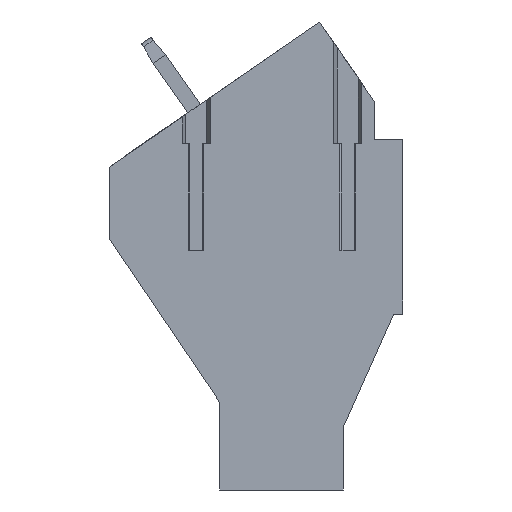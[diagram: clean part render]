
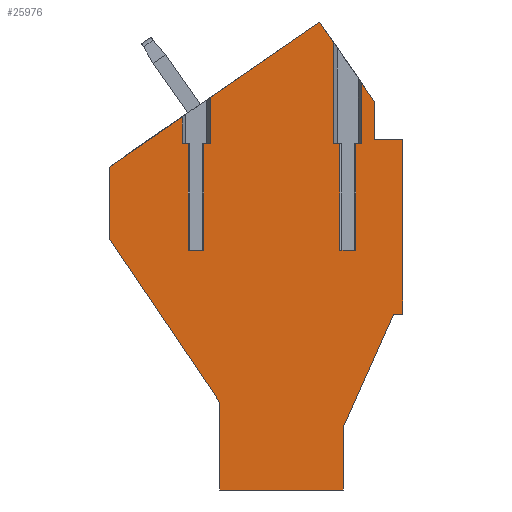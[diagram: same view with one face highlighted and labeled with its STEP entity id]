
A CAD part, front view. The second image highlights one B-rep face of the part: STEP entity #25976.
In plain terms, the highlighted planar face has unit normal (0, -1, 0).
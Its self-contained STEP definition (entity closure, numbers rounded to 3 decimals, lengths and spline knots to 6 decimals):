
#1=DIRECTION('',(-0.567,0.,0.824));
#2=VECTOR('',#1,0.001234);
#3=CARTESIAN_POINT('',(0.004998,0.,0.011318));
#4=LINE('',#3,#2);
#5=DIRECTION('',(0.,0.,1.));
#6=VECTOR('',#5,0.002);
#7=CARTESIAN_POINT('',(0.004998,0.,0.009318));
#8=LINE('',#7,#6);
#9=DIRECTION('',(-1.,0.,0.));
#10=VECTOR('',#9,0.0015);
#11=CARTESIAN_POINT('',(0.006498,0.,0.009318));
#12=LINE('',#11,#10);
#13=DIRECTION('',(0.,0.,1.));
#14=VECTOR('',#13,0.009318);
#15=CARTESIAN_POINT('',(0.006498,0.,0.));
#16=LINE('',#15,#14);
#17=DIRECTION('',(1.,0.,0.));
#18=VECTOR('',#17,0.0005);
#19=CARTESIAN_POINT('',(0.005998,0.,0.));
#20=LINE('',#19,#18);
#21=DIRECTION('',(0.407,0.,0.914));
#22=VECTOR('',#21,0.006633);
#23=CARTESIAN_POINT('',(0.0033,0.,-0.00606));
#24=LINE('',#23,#22);
#25=DIRECTION('',(0.,0.,1.));
#26=VECTOR('',#25,0.00334);
#27=CARTESIAN_POINT('',(0.0033,0.,-0.0094));
#28=LINE('',#27,#26);
#29=DIRECTION('',(1.,0.,0.));
#30=VECTOR('',#29,0.0066);
#31=CARTESIAN_POINT('',(-0.0033,0.,-0.0094));
#32=LINE('',#31,#30);
#33=DIRECTION('',(0.,0.,-1.));
#34=VECTOR('',#33,0.0047);
#35=CARTESIAN_POINT('',(-0.0033,0.,-0.0047));
#36=LINE('',#35,#34);
#37=DIRECTION('',(0.559,0.,-0.829));
#38=VECTOR('',#37,0.010554);
#39=CARTESIAN_POINT('',(-0.009202,0.,0.00405));
#40=LINE('',#39,#38);
#41=DIRECTION('',(0.,0.,-1.));
#42=VECTOR('',#41,0.0038);
#43=CARTESIAN_POINT('',(-0.009202,0.,0.00785));
#44=LINE('',#43,#42);
#45=DIRECTION('',(-0.824,0.,-0.567));
#46=VECTOR('',#45,0.004736);
#47=CARTESIAN_POINT('',(-0.005302,0.,0.010537));
#48=LINE('',#47,#46);
#49=DIRECTION('',(0.,0.,-1.));
#50=VECTOR('',#49,0.00247);
#51=CARTESIAN_POINT('',(-0.003802,0.,0.01157));
#52=LINE('',#51,#50);
#53=DIRECTION('',(-0.824,0.,-0.567));
#54=VECTOR('',#53,0.007104);
#55=CARTESIAN_POINT('',(0.002048,0.,0.0156));
#56=LINE('',#55,#54);
#57=DIRECTION('',(-0.567,0.,0.824));
#58=VECTOR('',#57,0.001322);
#59=CARTESIAN_POINT('',(0.002798,0.,0.014511));
#60=LINE('',#59,#58);
#65=DIRECTION('',(0.,0.,1.));
#66=VECTOR('',#65,0.0057);
#67=CARTESIAN_POINT('',(0.003968,0.,0.0034));
#68=LINE('',#67,#66);
#99=DIRECTION('',(1.,0.,0.));
#100=VECTOR('',#99,0.00084);
#101=CARTESIAN_POINT('',(0.003128,0.,0.0034));
#102=LINE('',#101,#100);
#126=DIRECTION('',(0.,0.,-1.));
#127=VECTOR('',#126,0.0057);
#128=CARTESIAN_POINT('',(0.003128,0.,0.0091));
#129=LINE('',#128,#127);
#139=DIRECTION('',(1.,0.,0.));
#140=VECTOR('',#139,0.00033);
#141=CARTESIAN_POINT('',(0.002798,0.,0.0091));
#142=LINE('',#141,#140);
#151=DIRECTION('',(0.,0.,-1.));
#152=VECTOR('',#151,0.005411);
#153=CARTESIAN_POINT('',(0.002798,0.,0.014511));
#154=LINE('',#153,#152);
#6860=DIRECTION('',(1.,0.,0.));
#6861=VECTOR('',#6860,0.00033);
#6862=CARTESIAN_POINT('',(-0.004132,0.,0.0091));
#6863=LINE('',#6862,#6861);
#6877=DIRECTION('',(0.,0.,1.));
#6878=VECTOR('',#6877,0.0057);
#6879=CARTESIAN_POINT('',(-0.004132,0.,0.0034));
#6880=LINE('',#6879,#6878);
#6915=DIRECTION('',(1.,0.,0.));
#6916=VECTOR('',#6915,0.00084);
#6917=CARTESIAN_POINT('',(-0.004972,0.,0.0034));
#6918=LINE('',#6917,#6916);
#6942=DIRECTION('',(0.,0.,-1.));
#6943=VECTOR('',#6942,0.0057);
#6944=CARTESIAN_POINT('',(-0.004972,0.,0.0091));
#6945=LINE('',#6944,#6943);
#6955=DIRECTION('',(1.,0.,0.));
#6956=VECTOR('',#6955,0.00033);
#6957=CARTESIAN_POINT('',(-0.005302,0.,0.0091));
#6958=LINE('',#6957,#6956);
#6972=DIRECTION('',(0.,0.,-1.));
#6973=VECTOR('',#6972,0.001437);
#6974=CARTESIAN_POINT('',(-0.005302,0.,0.010537));
#6975=LINE('',#6974,#6973);
#22905=DIRECTION('',(0.,0.,1.));
#22906=VECTOR('',#22905,0.003234);
#22907=CARTESIAN_POINT('',(0.004298,0.,0.0091));
#22908=LINE('',#22907,#22906);
#22917=DIRECTION('',(1.,0.,0.));
#22918=VECTOR('',#22917,0.00033);
#22919=CARTESIAN_POINT('',(0.003968,0.,0.0091));
#22920=LINE('',#22919,#22918);
#22987=CARTESIAN_POINT('',(-0.0033,0.,-0.0094));
#22989=VERTEX_POINT('',#22987);
#23017=CARTESIAN_POINT('',(-0.0033,0.,-0.0047));
#23018=VERTEX_POINT('',#23017);
#23019=CARTESIAN_POINT('',(0.0033,0.,-0.0094));
#23021=VERTEX_POINT('',#23019);
#23079=CARTESIAN_POINT('',(0.0033,0.,-0.00606));
#23081=VERTEX_POINT('',#23079);
#23083=CARTESIAN_POINT('',(0.005998,0.,0.));
#23085=VERTEX_POINT('',#23083);
#23087=CARTESIAN_POINT('',(0.006498,0.,0.));
#23089=VERTEX_POINT('',#23087);
#23091=CARTESIAN_POINT('',(0.006498,0.,0.009318));
#23093=VERTEX_POINT('',#23091);
#23119=CARTESIAN_POINT('',(0.004998,0.,0.009318));
#23121=VERTEX_POINT('',#23119);
#23123=CARTESIAN_POINT('',(0.004998,0.,0.011318));
#23125=VERTEX_POINT('',#23123);
#23135=CARTESIAN_POINT('',(0.004298,0.,0.012334));
#23136=VERTEX_POINT('',#23135);
#23141=CARTESIAN_POINT('',(0.002798,0.,0.014511));
#23142=VERTEX_POINT('',#23141);
#23143=CARTESIAN_POINT('',(0.002048,0.,0.0156));
#23144=VERTEX_POINT('',#23143);
#23307=CARTESIAN_POINT('',(-0.009202,0.,0.00405));
#23308=VERTEX_POINT('',#23307);
#23413=CARTESIAN_POINT('',(-0.009202,0.,0.00785));
#23414=VERTEX_POINT('',#23413);
#23959=CARTESIAN_POINT('',(-0.003802,0.,0.01157));
#23961=VERTEX_POINT('',#23959);
#23965=CARTESIAN_POINT('',(-0.005302,0.,0.010537));
#23966=VERTEX_POINT('',#23965);
#23967=CARTESIAN_POINT('',(-0.003802,0.,0.0091));
#23968=VERTEX_POINT('',#23967);
#23975=CARTESIAN_POINT('',(0.003968,0.,0.0091));
#23976=CARTESIAN_POINT('',(0.004298,0.,0.0091));
#23977=VERTEX_POINT('',#23975);
#23978=VERTEX_POINT('',#23976);
#23979=CARTESIAN_POINT('',(-0.005302,0.,0.0091));
#23980=VERTEX_POINT('',#23979);
#23981=CARTESIAN_POINT('',(-0.004972,0.,0.0091));
#23982=VERTEX_POINT('',#23981);
#23983=CARTESIAN_POINT('',(-0.004972,0.,0.0034));
#23984=VERTEX_POINT('',#23983);
#23985=CARTESIAN_POINT('',(-0.004132,0.,0.0034));
#23986=VERTEX_POINT('',#23985);
#23987=CARTESIAN_POINT('',(-0.004132,0.,0.0091));
#23988=VERTEX_POINT('',#23987);
#23989=CARTESIAN_POINT('',(0.002798,0.,0.0091));
#23990=VERTEX_POINT('',#23989);
#23991=CARTESIAN_POINT('',(0.003128,0.,0.0091));
#23992=VERTEX_POINT('',#23991);
#23993=CARTESIAN_POINT('',(0.003128,0.,0.0034));
#23994=VERTEX_POINT('',#23993);
#23995=CARTESIAN_POINT('',(0.003968,0.,0.0034));
#23996=VERTEX_POINT('',#23995);
#25914=CARTESIAN_POINT('',(0.,0.,0.));
#25915=DIRECTION('',(0.,1.,0.));
#25916=DIRECTION('',(1.,0.,0.));
#25917=AXIS2_PLACEMENT_3D('',#25914,#25915,#25916);
#25918=PLANE('',#25917);
#25920=ORIENTED_EDGE('',*,*,#25919,.T.);
#25922=ORIENTED_EDGE('',*,*,#25921,.T.);
#25924=ORIENTED_EDGE('',*,*,#25923,.T.);
#25926=ORIENTED_EDGE('',*,*,#25925,.F.);
#25928=ORIENTED_EDGE('',*,*,#25927,.F.);
#25930=ORIENTED_EDGE('',*,*,#25929,.F.);
#25932=ORIENTED_EDGE('',*,*,#25931,.F.);
#25934=ORIENTED_EDGE('',*,*,#25933,.F.);
#25936=ORIENTED_EDGE('',*,*,#25935,.F.);
#25938=ORIENTED_EDGE('',*,*,#25937,.F.);
#25940=ORIENTED_EDGE('',*,*,#25939,.F.);
#25941=ORIENTED_EDGE('',*,*,#25879,.F.);
#25943=ORIENTED_EDGE('',*,*,#25942,.F.);
#25945=ORIENTED_EDGE('',*,*,#25944,.F.);
#25947=ORIENTED_EDGE('',*,*,#25946,.F.);
#25949=ORIENTED_EDGE('',*,*,#25948,.T.);
#25951=ORIENTED_EDGE('',*,*,#25950,.T.);
#25953=ORIENTED_EDGE('',*,*,#25952,.T.);
#25955=ORIENTED_EDGE('',*,*,#25954,.T.);
#25957=ORIENTED_EDGE('',*,*,#25956,.T.);
#25959=ORIENTED_EDGE('',*,*,#25958,.T.);
#25961=ORIENTED_EDGE('',*,*,#25960,.F.);
#25963=ORIENTED_EDGE('',*,*,#25962,.F.);
#25965=ORIENTED_EDGE('',*,*,#25964,.F.);
#25967=ORIENTED_EDGE('',*,*,#25966,.T.);
#25969=ORIENTED_EDGE('',*,*,#25968,.T.);
#25971=ORIENTED_EDGE('',*,*,#25970,.T.);
#25973=ORIENTED_EDGE('',*,*,#25972,.T.);
#25974=EDGE_LOOP('',(#25920,#25922,#25924,#25926,#25928,#25930,#25932,#25934,
#25936,#25938,#25940,#25941,#25943,#25945,#25947,#25949,#25951,#25953,#25955,
#25957,#25959,#25961,#25963,#25965,#25967,#25969,#25971,#25973));
#25975=FACE_OUTER_BOUND('',#25974,.F.);
#25976=ADVANCED_FACE('',(#25975),#25918,.F.);
#25879=EDGE_CURVE('',#23018,#22989,#36,.T.);
#25919=EDGE_CURVE('',#23996,#23977,#68,.T.);
#25921=EDGE_CURVE('',#23977,#23978,#22920,.T.);
#25923=EDGE_CURVE('',#23978,#23136,#22908,.T.);
#25925=EDGE_CURVE('',#23125,#23136,#4,.T.);
#25927=EDGE_CURVE('',#23121,#23125,#8,.T.);
#25929=EDGE_CURVE('',#23093,#23121,#12,.T.);
#25931=EDGE_CURVE('',#23089,#23093,#16,.T.);
#25933=EDGE_CURVE('',#23085,#23089,#20,.T.);
#25935=EDGE_CURVE('',#23081,#23085,#24,.T.);
#25937=EDGE_CURVE('',#23021,#23081,#28,.T.);
#25939=EDGE_CURVE('',#22989,#23021,#32,.T.);
#25942=EDGE_CURVE('',#23308,#23018,#40,.T.);
#25944=EDGE_CURVE('',#23414,#23308,#44,.T.);
#25946=EDGE_CURVE('',#23966,#23414,#48,.T.);
#25948=EDGE_CURVE('',#23966,#23980,#6975,.T.);
#25950=EDGE_CURVE('',#23980,#23982,#6958,.T.);
#25952=EDGE_CURVE('',#23982,#23984,#6945,.T.);
#25954=EDGE_CURVE('',#23984,#23986,#6918,.T.);
#25956=EDGE_CURVE('',#23986,#23988,#6880,.T.);
#25958=EDGE_CURVE('',#23988,#23968,#6863,.T.);
#25960=EDGE_CURVE('',#23961,#23968,#52,.T.);
#25962=EDGE_CURVE('',#23144,#23961,#56,.T.);
#25964=EDGE_CURVE('',#23142,#23144,#60,.T.);
#25966=EDGE_CURVE('',#23142,#23990,#154,.T.);
#25968=EDGE_CURVE('',#23990,#23992,#142,.T.);
#25970=EDGE_CURVE('',#23992,#23994,#129,.T.);
#25972=EDGE_CURVE('',#23994,#23996,#102,.T.);
